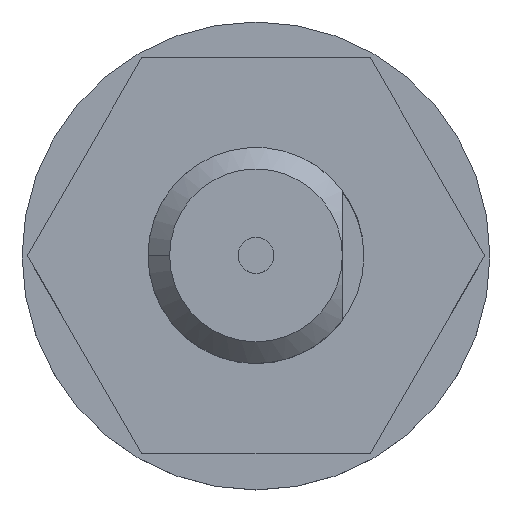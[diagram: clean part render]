
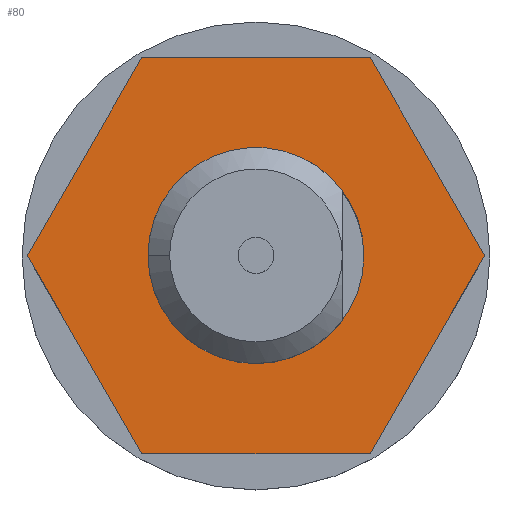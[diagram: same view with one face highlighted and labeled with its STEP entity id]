
A CAD part, top view. The second image highlights one B-rep face of the part: STEP entity #80.
In plain terms, the highlighted planar face has unit normal (0, 0, 1) as drawn and (-1, 0, 0) by its records, which use the part's own axes.
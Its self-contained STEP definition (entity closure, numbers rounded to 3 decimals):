
#2 = VERTEX_POINT ( 'NONE', #27 ) ;
#7 = VERTEX_POINT ( 'NONE', #28 ) ;
#27 = CARTESIAN_POINT ( 'NONE',  ( -7.5, 0., -3.175 ) ) ;
#28 = CARTESIAN_POINT ( 'NONE',  ( -7.5, 2.75, -1.588 ) ) ;
#44 = EDGE_CURVE ( 'NONE', #52, #60, #265, .T. ) ;
#45 = EDGE_CURVE ( 'NONE', #56, #7, #324, .T. ) ;
#46 = EDGE_CURVE ( 'NONE', #60, #57, #320, .T. ) ;
#47 = ORIENTED_EDGE ( 'NONE', *, *, #76, .F. ) ;
#48 = ORIENTED_EDGE ( 'NONE', *, *, #44, .T. ) ;
#49 = ORIENTED_EDGE ( 'NONE', *, *, #45, .T. ) ;
#50 = ORIENTED_EDGE ( 'NONE', *, *, #54, .F. ) ;
#51 = EDGE_LOOP ( 'NONE', ( #47, #50 ) ) ;
#52 = VERTEX_POINT ( 'NONE', #316 ) ;
#53 = EDGE_CURVE ( 'NONE', #57, #56, #315, .T. ) ;
#54 = EDGE_CURVE ( 'NONE', #67, #109, #311, .T. ) ;
#55 = ORIENTED_EDGE ( 'NONE', *, *, #46, .T. ) ;
#56 = VERTEX_POINT ( 'NONE', #306 ) ;
#57 = VERTEX_POINT ( 'NONE', #305 ) ;
#58 = ORIENTED_EDGE ( 'NONE', *, *, #53, .T. ) ;
#60 = VERTEX_POINT ( 'NONE', #297 ) ;
#61 = ORIENTED_EDGE ( 'NONE', *, *, #62, .T. ) ;
#62 = EDGE_CURVE ( 'NONE', #2, #52, #296, .T. ) ;
#63 = ORIENTED_EDGE ( 'NONE', *, *, #93, .T. ) ;
#67 = VERTEX_POINT ( 'NONE', #351 ) ;
#70 = EDGE_LOOP ( 'NONE', ( #63, #61, #48, #55, #58, #49 ) ) ;
#76 = EDGE_CURVE ( 'NONE', #109, #67, #341, .T. ) ;
#80 = ADVANCED_FACE ( 'NONE', ( #327, #326 ), #325, .F. ) ;
#93 = EDGE_CURVE ( 'NONE', #7, #2, #364, .T. ) ;
#109 = VERTEX_POINT ( 'NONE', #399 ) ;
#262 = DIRECTION ( 'NONE',  ( 0., 0., 1. ) ) ;
#263 = VECTOR ( 'NONE', #262, 1000. ) ;
#264 = CARTESIAN_POINT ( 'NONE',  ( -7.5, -2.75, -1.588 ) ) ;
#265 = LINE ( 'NONE', #264, #263 ) ;
#293 = DIRECTION ( 'NONE',  ( 0., -0.866, 0.5 ) ) ;
#294 = VECTOR ( 'NONE', #293, 1000. ) ;
#295 = CARTESIAN_POINT ( 'NONE',  ( -7.5, 0., -3.175 ) ) ;
#296 = LINE ( 'NONE', #295, #294 ) ;
#297 = CARTESIAN_POINT ( 'NONE',  ( -7.5, -2.75, 1.588 ) ) ;
#305 = CARTESIAN_POINT ( 'NONE',  ( -7.5, 0., 3.175 ) ) ;
#306 = CARTESIAN_POINT ( 'NONE',  ( -7.5, 2.75, 1.588 ) ) ;
#307 = DIRECTION ( 'NONE',  ( 0., 0., 1. ) ) ;
#308 = DIRECTION ( 'NONE',  ( -1., 0., 0. ) ) ;
#309 = CARTESIAN_POINT ( 'NONE',  ( -7.5, 0., 0. ) ) ;
#310 = AXIS2_PLACEMENT_3D ( 'NONE', #309, #308, #307 ) ;
#311 = CIRCLE ( 'NONE', #310, 1.5 ) ;
#312 = DIRECTION ( 'NONE',  ( 0., 0.866, -0.5 ) ) ;
#313 = VECTOR ( 'NONE', #312, 1000. ) ;
#314 = CARTESIAN_POINT ( 'NONE',  ( -7.5, 0., 3.175 ) ) ;
#315 = LINE ( 'NONE', #314, #313 ) ;
#316 = CARTESIAN_POINT ( 'NONE',  ( -7.5, -2.75, -1.588 ) ) ;
#317 = DIRECTION ( 'NONE',  ( 0., 0.866, 0.5 ) ) ;
#318 = VECTOR ( 'NONE', #317, 1000. ) ;
#319 = CARTESIAN_POINT ( 'NONE',  ( -7.5, -2.75, 1.588 ) ) ;
#320 = LINE ( 'NONE', #319, #318 ) ;
#321 = DIRECTION ( 'NONE',  ( 0., 0., -1. ) ) ;
#322 = VECTOR ( 'NONE', #321, 1000. ) ;
#323 = CARTESIAN_POINT ( 'NONE',  ( -7.5, 2.75, 1.588 ) ) ;
#324 = LINE ( 'NONE', #323, #322 ) ;
#325 = PLANE ( 'NONE',  #392 ) ;
#326 = FACE_BOUND ( 'NONE', #51, .T. ) ;
#327 = FACE_OUTER_BOUND ( 'NONE', #70, .T. ) ;
#333 = DIRECTION ( 'NONE',  ( 0., 0., 1. ) ) ;
#334 = DIRECTION ( 'NONE',  ( -1., 0., 0. ) ) ;
#335 = CARTESIAN_POINT ( 'NONE',  ( -7.5, 0., 0. ) ) ;
#336 = AXIS2_PLACEMENT_3D ( 'NONE', #335, #334, #333 ) ;
#341 = CIRCLE ( 'NONE', #336, 1.5 ) ;
#351 = CARTESIAN_POINT ( 'NONE',  ( -7.5, 0., 1.5 ) ) ;
#361 = DIRECTION ( 'NONE',  ( 0., -0.866, -0.5 ) ) ;
#362 = VECTOR ( 'NONE', #361, 1000. ) ;
#363 = CARTESIAN_POINT ( 'NONE',  ( -7.5, 2.75, -1.588 ) ) ;
#364 = LINE ( 'NONE', #363, #362 ) ;
#389 = DIRECTION ( 'NONE',  ( 0., 0., -1. ) ) ;
#390 = DIRECTION ( 'NONE',  ( 1., 0., 0. ) ) ;
#391 = CARTESIAN_POINT ( 'NONE',  ( -7.5, 5.5, 0. ) ) ;
#392 = AXIS2_PLACEMENT_3D ( 'NONE', #391, #390, #389 ) ;
#399 = CARTESIAN_POINT ( 'NONE',  ( -7.5, 0., -1.5 ) ) ;
